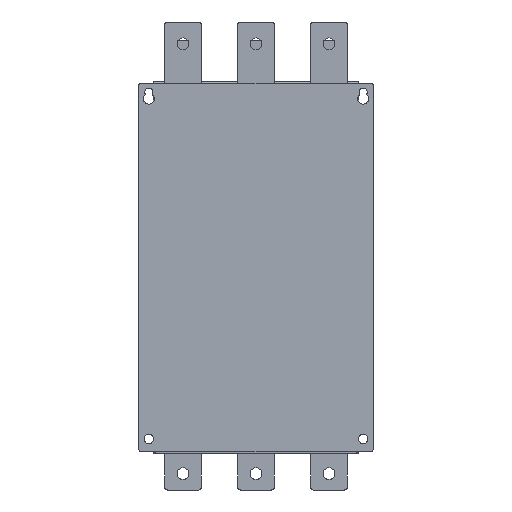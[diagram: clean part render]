
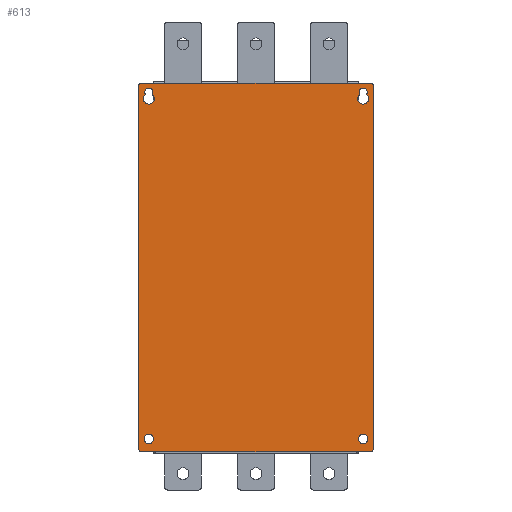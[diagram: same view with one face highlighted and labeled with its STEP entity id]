
A CAD part, left-side view. The second image highlights one B-rep face of the part: STEP entity #613.
In plain terms, the highlighted planar face has unit normal (-1, 0, 0).
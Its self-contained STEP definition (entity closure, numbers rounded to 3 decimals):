
#613=ADVANCED_FACE('',(#1506,#1508,#1510,#1512,#1514),#1516,.F.);
#1506=FACE_BOUND('',#1507,.T.);
#1507=EDGE_LOOP('',(#5187,#5188,#5189,#5190,#5191,#5192,#5193,#5194));
#1508=FACE_BOUND('',#1509,.T.);
#1509=EDGE_LOOP('',(#5195,#5196));
#1510=FACE_BOUND('',#1511,.T.);
#1511=EDGE_LOOP('',(#5197,#5198));
#1512=FACE_BOUND('',#1513,.T.);
#1513=EDGE_LOOP('',(#5199));
#1514=FACE_BOUND('',#1515,.T.);
#1515=EDGE_LOOP('',(#5200));
#1516=PLANE('',#1517);
#1517=AXIS2_PLACEMENT_3D('',#1518,#1519,#1520);
#1518=CARTESIAN_POINT('',(0.,0.,0.));
#1519=DIRECTION('',(1.,0.,0.));
#1520=DIRECTION('',(0.,1.,0.));
#5187=ORIENTED_EDGE('',*,*,#7655,.F.);
#5188=ORIENTED_EDGE('',*,*,#7598,.F.);
#5189=ORIENTED_EDGE('',*,*,#7656,.F.);
#5190=ORIENTED_EDGE('',*,*,#7657,.F.);
#5191=ORIENTED_EDGE('',*,*,#7658,.F.);
#5192=ORIENTED_EDGE('',*,*,#7589,.F.);
#5193=ORIENTED_EDGE('',*,*,#7653,.F.);
#5194=ORIENTED_EDGE('',*,*,#7659,.F.);
#5195=ORIENTED_EDGE('',*,*,#7660,.T.);
#5196=ORIENTED_EDGE('',*,*,#7661,.T.);
#5197=ORIENTED_EDGE('',*,*,#7662,.T.);
#5198=ORIENTED_EDGE('',*,*,#7663,.T.);
#5199=ORIENTED_EDGE('',*,*,#7664,.T.);
#5200=ORIENTED_EDGE('',*,*,#7665,.T.);
#7589=EDGE_CURVE('',#8925,#8927,#8928,.T.);
#7598=EDGE_CURVE('',#8940,#8942,#8943,.T.);
#7653=EDGE_CURVE('',#9043,#8925,#9044,.T.);
#7655=EDGE_CURVE('',#8942,#9046,#9047,.T.);
#7656=EDGE_CURVE('',#9048,#8940,#9049,.T.);
#7657=EDGE_CURVE('',#9050,#9048,#9051,.T.);
#7658=EDGE_CURVE('',#8927,#9050,#9052,.T.);
#7659=EDGE_CURVE('',#9046,#9043,#9053,.T.);
#7660=EDGE_CURVE('',#9054,#9055,#9056,.T.);
#7661=EDGE_CURVE('',#9055,#9054,#9057,.T.);
#7662=EDGE_CURVE('',#9058,#9059,#9060,.T.);
#7663=EDGE_CURVE('',#9059,#9058,#9061,.T.);
#7664=EDGE_CURVE('',#9062,#9062,#9063,.T.);
#7665=EDGE_CURVE('',#9064,#9064,#9065,.T.);
#8925=VERTEX_POINT('',#11232);
#8927=VERTEX_POINT('',#11236);
#8928=LINE('',#11237,#11238);
#8940=VERTEX_POINT('',#11267);
#8942=VERTEX_POINT('',#11271);
#8943=LINE('',#11272,#11273);
#9043=VERTEX_POINT('',#11493);
#9044=CIRCLE('',#11494,3.);
#9046=VERTEX_POINT('',#11501);
#9047=CIRCLE('',#11502,3.);
#9048=VERTEX_POINT('',#11506);
#9049=CIRCLE('',#11507,3.);
#9050=VERTEX_POINT('',#11511);
#9051=LINE('',#11512,#11513);
#9052=CIRCLE('',#11515,3.);
#9053=LINE('',#11519,#11520);
#9054=VERTEX_POINT('',#11522);
#9055=VERTEX_POINT('',#11523);
#9056=CIRCLE('',#11524,4.5);
#9057=CIRCLE('',#11528,6.);
#9058=VERTEX_POINT('',#11532);
#9059=VERTEX_POINT('',#11533);
#9060=CIRCLE('',#11534,4.5);
#9061=CIRCLE('',#11538,6.);
#9062=VERTEX_POINT('',#11542);
#9063=CIRCLE('',#11543,5.25);
#9064=VERTEX_POINT('',#11547);
#9065=CIRCLE('',#11548,5.25);
#11232=CARTESIAN_POINT('',(0.,-128.5,199.));
#11236=CARTESIAN_POINT('',(0.,-128.5,-199.));
#11237=CARTESIAN_POINT('',(0.,-128.5,199.));
#11238=VECTOR('',#11239,1.);
#11239=DIRECTION('',(0.,0.,-1.));
#11267=CARTESIAN_POINT('',(0.,128.5,-199.));
#11271=CARTESIAN_POINT('',(0.,128.5,199.));
#11272=CARTESIAN_POINT('',(0.,128.5,-199.));
#11273=VECTOR('',#11274,1.);
#11274=DIRECTION('',(0.,0.,1.));
#11493=CARTESIAN_POINT('',(0.,-125.5,202.));
#11494=AXIS2_PLACEMENT_3D('',#11495,#11496,#11497);
#11495=CARTESIAN_POINT('',(0.,-125.5,199.));
#11496=DIRECTION('',(1.,0.,0.));
#11497=DIRECTION('',(0.,0.,1.));
#11501=CARTESIAN_POINT('',(0.,125.5,202.));
#11502=AXIS2_PLACEMENT_3D('',#11503,#11504,#11505);
#11503=CARTESIAN_POINT('',(0.,125.5,199.));
#11504=DIRECTION('',(1.,0.,0.));
#11505=DIRECTION('',(0.,1.,0.));
#11506=CARTESIAN_POINT('',(0.,125.5,-202.));
#11507=AXIS2_PLACEMENT_3D('',#11508,#11509,#11510);
#11508=CARTESIAN_POINT('',(0.,125.5,-199.));
#11509=DIRECTION('',(1.,0.,0.));
#11510=DIRECTION('',(0.,0.,-1.));
#11511=CARTESIAN_POINT('',(0.,-125.5,-202.));
#11512=CARTESIAN_POINT('',(0.,-125.5,-202.));
#11513=VECTOR('',#11514,1.);
#11514=DIRECTION('',(0.,1.,0.));
#11515=AXIS2_PLACEMENT_3D('',#11516,#11517,#11518);
#11516=CARTESIAN_POINT('',(0.,-125.5,-199.));
#11517=DIRECTION('',(1.,0.,0.));
#11518=DIRECTION('',(0.,-1.,0.));
#11519=CARTESIAN_POINT('',(0.,125.5,202.));
#11520=VECTOR('',#11521,1.);
#11521=DIRECTION('',(0.,-1.,0.));
#11522=CARTESIAN_POINT('',(0.,-113.678,189.625));
#11523=CARTESIAN_POINT('',(0.,-121.322,189.625));
#11524=AXIS2_PLACEMENT_3D('',#11525,#11526,#11527);
#11525=CARTESIAN_POINT('',(0.,-117.5,192.));
#11526=DIRECTION('',(1.,0.,0.));
#11527=DIRECTION('',(0.,0.849,-0.528));
#11528=AXIS2_PLACEMENT_3D('',#11529,#11530,#11531);
#11529=CARTESIAN_POINT('',(0.,-117.5,185.));
#11530=DIRECTION('',(1.,0.,0.));
#11531=DIRECTION('',(0.,-0.637,0.771));
#11532=CARTESIAN_POINT('',(0.,121.322,189.625));
#11533=CARTESIAN_POINT('',(0.,113.678,189.625));
#11534=AXIS2_PLACEMENT_3D('',#11535,#11536,#11537);
#11535=CARTESIAN_POINT('',(0.,117.5,192.));
#11536=DIRECTION('',(1.,0.,0.));
#11537=DIRECTION('',(0.,0.849,-0.528));
#11538=AXIS2_PLACEMENT_3D('',#11539,#11540,#11541);
#11539=CARTESIAN_POINT('',(0.,117.5,185.));
#11540=DIRECTION('',(1.,0.,0.));
#11541=DIRECTION('',(0.,-0.637,0.771));
#11542=CARTESIAN_POINT('',(0.,-112.25,-188.));
#11543=AXIS2_PLACEMENT_3D('',#11544,#11545,#11546);
#11544=CARTESIAN_POINT('',(0.,-117.5,-188.));
#11545=DIRECTION('',(1.,0.,0.));
#11546=DIRECTION('',(0.,1.,0.));
#11547=CARTESIAN_POINT('',(0.,122.75,-188.));
#11548=AXIS2_PLACEMENT_3D('',#11549,#11550,#11551);
#11549=CARTESIAN_POINT('',(0.,117.5,-188.));
#11550=DIRECTION('',(1.,0.,0.));
#11551=DIRECTION('',(0.,1.,0.));
